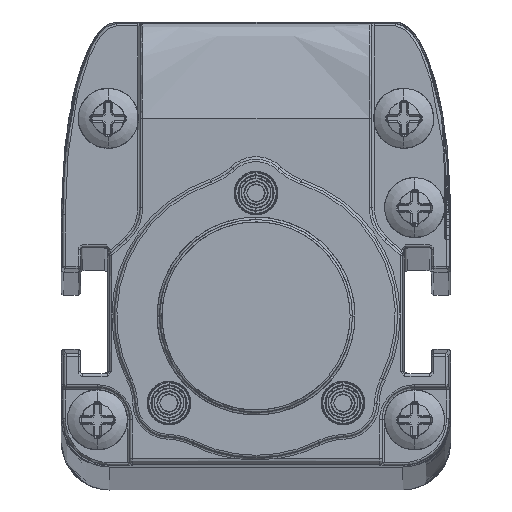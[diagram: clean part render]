
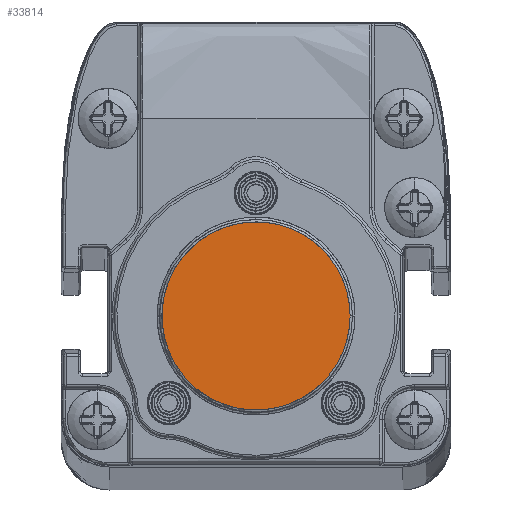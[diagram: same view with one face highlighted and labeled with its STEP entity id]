
A CAD part, top view. The second image highlights one B-rep face of the part: STEP entity #33814.
In plain terms, the highlighted planar face has unit normal (0, 0, 1).
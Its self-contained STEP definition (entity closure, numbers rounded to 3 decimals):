
#33735=CARTESIAN_POINT('',(-7.797,0.22,1133.24));
#33736=CARTESIAN_POINT('',(-7.789,0.499,1133.24));
#33737=CARTESIAN_POINT('',(-7.743,1.055,1133.24));
#33738=CARTESIAN_POINT('',(-7.583,1.892,1133.24));
#33739=CARTESIAN_POINT('',(-7.339,2.685,1133.24));
#33740=CARTESIAN_POINT('',(-7.017,3.439,1133.24));
#33741=CARTESIAN_POINT('',(-6.609,4.171,1133.24));
#33742=CARTESIAN_POINT('',(-6.138,4.836,1133.24));
#33743=CARTESIAN_POINT('',(-5.595,5.455,1133.24));
#33744=CARTESIAN_POINT('',(-4.994,6.011,1133.24));
#33745=CARTESIAN_POINT('',(-4.324,6.509,1133.24));
#33746=CARTESIAN_POINT('',(-3.609,6.933,1133.24));
#33747=CARTESIAN_POINT('',(-2.814,7.292,1133.24));
#33748=CARTESIAN_POINT('',(-1.995,7.557,1133.24));
#33749=CARTESIAN_POINT('',(-1.145,7.731,1133.24));
#33750=CARTESIAN_POINT('',(-0.293,7.811,1133.24));
#33751=CARTESIAN_POINT('',(0.591,7.793,1133.24));
#33752=CARTESIAN_POINT('',(1.436,7.683,1133.24));
#33753=CARTESIAN_POINT('',(2.275,7.478,1133.24));
#33754=CARTESIAN_POINT('',(3.09,7.178,1133.24));
#33755=CARTESIAN_POINT('',(3.849,6.802,1133.24));
#33756=CARTESIAN_POINT('',(4.558,6.347,1133.24));
#33757=CARTESIAN_POINT('',(5.215,5.82,1133.24));
#33758=CARTESIAN_POINT('',(5.809,5.227,1133.24));
#33759=CARTESIAN_POINT('',(6.311,4.608,1133.24));
#33760=CARTESIAN_POINT('',(6.776,3.895,1133.24));
#33761=CARTESIAN_POINT('',(7.137,3.177,1133.24));
#33762=CARTESIAN_POINT('',(7.425,2.432,1133.24));
#33763=CARTESIAN_POINT('',(7.643,1.624,1133.24));
#33764=CARTESIAN_POINT('',(7.768,0.866,1133.24));
#33765=CARTESIAN_POINT('',(7.798,0.294,1133.24));
#33766=CARTESIAN_POINT('',(7.8,0.,1133.24));
#33768=CARTESIAN_POINT('',(7.8,0.,1133.24));
#33769=CARTESIAN_POINT('',(7.8,-0.299,1133.24));
#33770=CARTESIAN_POINT('',(7.766,-0.891,1133.24));
#33771=CARTESIAN_POINT('',(7.629,-1.702,1133.24));
#33772=CARTESIAN_POINT('',(7.37,-2.602,1133.24));
#33773=CARTESIAN_POINT('',(7.044,-3.385,1133.24));
#33774=CARTESIAN_POINT('',(6.612,-4.171,1133.24));
#33775=CARTESIAN_POINT('',(6.101,-4.884,1133.24));
#33776=CARTESIAN_POINT('',(5.535,-5.518,1133.24));
#33777=CARTESIAN_POINT('',(4.885,-6.1,1133.24));
#33778=CARTESIAN_POINT('',(4.197,-6.592,1133.24));
#33779=CARTESIAN_POINT('',(3.458,-7.008,1133.24));
#33780=CARTESIAN_POINT('',(2.686,-7.338,1133.24));
#33781=CARTESIAN_POINT('',(1.874,-7.587,1133.24));
#33782=CARTESIAN_POINT('',(1.072,-7.74,1133.24));
#33783=CARTESIAN_POINT('',(0.237,-7.811,1133.24));
#33784=CARTESIAN_POINT('',(-0.581,-7.793,1133.24));
#33785=CARTESIAN_POINT('',(-1.399,-7.688,1133.24));
#33786=CARTESIAN_POINT('',(-2.202,-7.498,1133.24));
#33787=CARTESIAN_POINT('',(-2.978,-7.225,1133.24));
#33788=CARTESIAN_POINT('',(-3.722,-6.872,1133.24));
#33789=CARTESIAN_POINT('',(-4.451,-6.425,1133.24));
#33790=CARTESIAN_POINT('',(-5.132,-5.895,1133.24));
#33791=CARTESIAN_POINT('',(-5.753,-5.291,1133.24));
#33792=CARTESIAN_POINT('',(-6.307,-4.616,1133.24));
#33793=CARTESIAN_POINT('',(-6.769,-3.907,1133.24));
#33794=CARTESIAN_POINT('',(-7.169,-3.112,1133.24));
#33795=CARTESIAN_POINT('',(-7.463,-2.321,1133.24));
#33796=CARTESIAN_POINT('',(-7.675,-1.474,1133.24));
#33797=CARTESIAN_POINT('',(-7.79,-0.625,1133.24));
#33798=CARTESIAN_POINT('',(-7.805,-0.062,1133.24));
#33799=CARTESIAN_POINT('',(-7.797,0.22,1133.24));
#33801=VERTEX_POINT('',#33766);
#33802=VERTEX_POINT('',#33735);
#33803=CARTESIAN_POINT('',(0.,0.,1133.24));
#33804=DIRECTION('',(0.,0.,1.));
#33805=DIRECTION('',(1.,0.,0.));
#33806=AXIS2_PLACEMENT_3D('',#33803,#33804,#33805);
#33807=PLANE('',#33806);
#33809=ORIENTED_EDGE('',*,*,#33808,.T.);
#33811=ORIENTED_EDGE('',*,*,#33810,.T.);
#33812=EDGE_LOOP('',(#33809,#33811));
#33813=FACE_OUTER_BOUND('',#33812,.F.);
#33814=ADVANCED_FACE('',(#33813),#33807,.T.);
#33767=B_SPLINE_CURVE_WITH_KNOTS('',3,(#33735,#33736,#33737,#33738,#33739,
#33740,#33741,#33742,#33743,#33744,#33745,#33746,#33747,#33748,#33749,#33750,
#33751,#33752,#33753,#33754,#33755,#33756,#33757,#33758,#33759,#33760,#33761,
#33762,#33763,#33764,#33765,#33766),.UNSPECIFIED.,.F.,.F.,(4,1,1,1,1,1,1,1,1,1,
1,1,1,1,1,1,1,1,1,1,1,1,1,1,1,1,1,1,1,4),(0.,0.034,
0.069,0.103,0.138,0.172,
0.207,0.241,0.276,0.31,
0.345,0.379,0.414,0.448,
0.483,0.517,0.552,0.586,
0.621,0.655,0.69,0.724,
0.759,0.793,0.828,0.862,
0.897,0.931,0.966,1.),.UNSPECIFIED.);
#33800=B_SPLINE_CURVE_WITH_KNOTS('',3,(#33768,#33769,#33770,#33771,#33772,
#33773,#33774,#33775,#33776,#33777,#33778,#33779,#33780,#33781,#33782,#33783,
#33784,#33785,#33786,#33787,#33788,#33789,#33790,#33791,#33792,#33793,#33794,
#33795,#33796,#33797,#33798,#33799),.UNSPECIFIED.,.F.,.F.,(4,1,1,1,1,1,1,1,1,1,
1,1,1,1,1,1,1,1,1,1,1,1,1,1,1,1,1,1,1,4),(0.,0.034,
0.069,0.103,0.138,0.172,
0.207,0.241,0.276,0.31,
0.345,0.379,0.414,0.448,
0.483,0.517,0.552,0.586,
0.621,0.655,0.69,0.724,
0.759,0.793,0.828,0.862,
0.897,0.931,0.966,1.),.UNSPECIFIED.);
#33808=EDGE_CURVE('',#33802,#33801,#33767,.T.);
#33810=EDGE_CURVE('',#33801,#33802,#33800,.T.);
